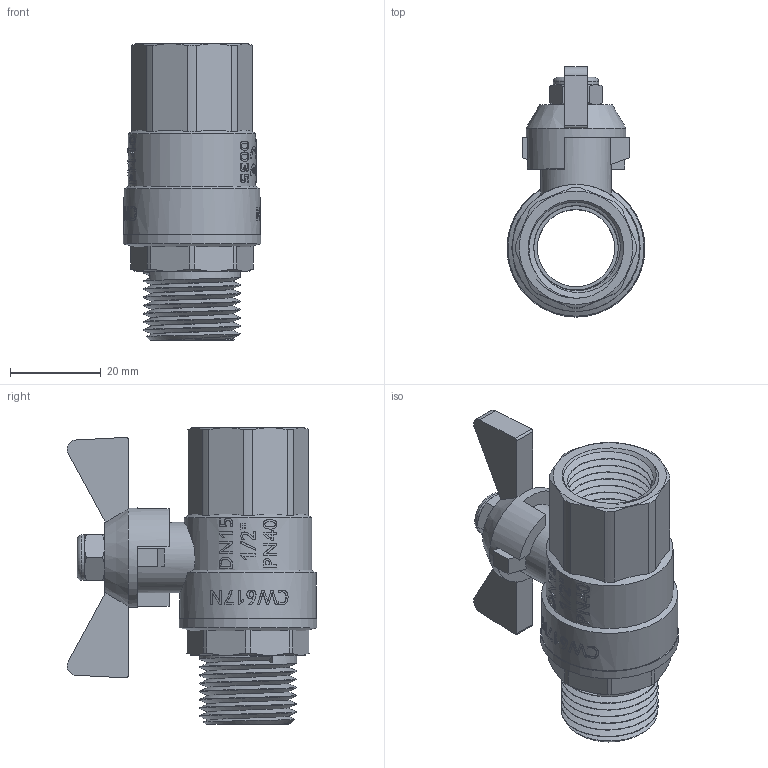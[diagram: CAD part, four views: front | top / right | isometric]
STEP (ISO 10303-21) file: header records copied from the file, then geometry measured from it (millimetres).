
FILE_DESCRIPTION(/* description */ (''),/* implementation_level */ '2;1');
FILE_NAME(/* name */ 'H:\Мишенин_3D\Исходные файлы 3D\VT.278.N.04.stp',/* time_stamp */ '2018-01-19T12:13:19+03:00',/* author */ ('MisheninAL'),/* organization */ (''),/* preprocessor_version */ 'ST-DEVELOPER v16.13',/* originating_system */ 'Autodesk Inventor 2018',/* authorisation */ '');
FILE_SCHEMA (('AP203_CONFIGURATION_CONTROLLED_3D_DESIGN_OF_MECHANICAL_PARTS_AND_ASSEMBLIES_MIM_LF { 1 0 10303 203 3 1 4 }','AUTOMOTIVE_DESIGN { 1 0 10303 214 3 1 1 }'));
Length unit declared in the file: millimetre
Products named in the file (1): VT.271_ВВ_1%2
Bounding box: 30.37 x 55.03 x 65.39 mm (x, y, z)
Surface area: 15414.5 mm2 (no closed solid volume)
Topology: 0 solids, 1 shells, 519 faces, 1392 edges, 920 vertices
Faces by surface type: plane 213, bspline 188, cylinder 89, cone 28, torus 1
Full cylindrical faces by diameter (mm): 10 x1, 15.5 x1, 17 x1, 18.6 x9, 21.373 x6, 22 x1, 28 x1, 30 x1, 30.373 x1
Entity records: 26865 total; most frequent: CARTESIAN_POINT 15063, ORIENTED_EDGE 2646, DIRECTION 1818, EDGE_CURVE 1323, VERTEX_POINT 879, AXIS2_PLACEMENT_3D 607, LINE 604, VECTOR 604
